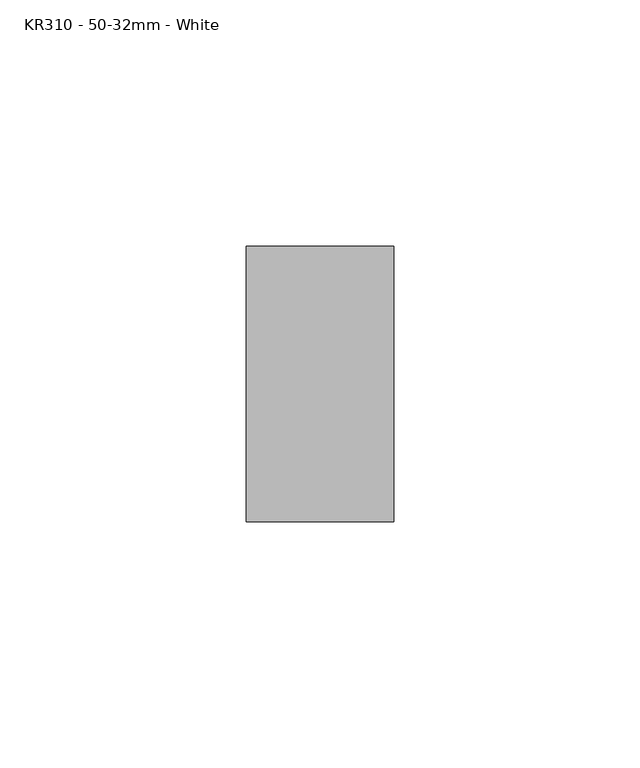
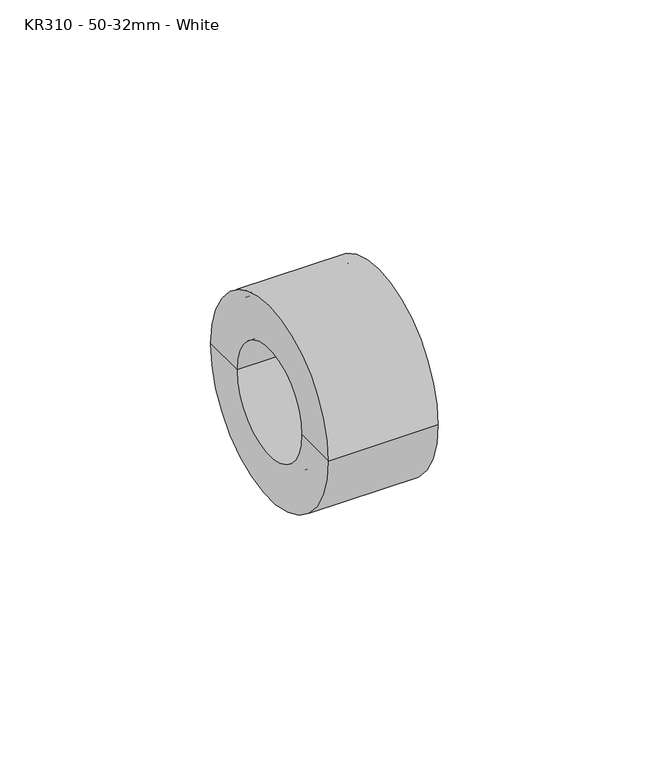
"""IFC4 building model written with IfcOpenShell, lengths in millimetres: pipe fitting geometry, MarleyPlumbingAndDrainage_PipeFitting_SocketReducer : KR310 - 50-32mm - White."""

from ifc_helpers import new_model, si_unit, frame, origin, place, context, project, spatial, polyline, circle_curve, source, transform, mapped, element, save
from ifc_brep_helpers import plane_surface, cylinder_surface, revolved_surface, advanced_brep


def kr310_50_32mm_white_3ceea3f4(model_context):
    return source(origin(), model_context, "Body", "AdvancedBrep", [
        advanced_brep(
        [(-14.8253818, -25.5, 0.0), (-14.8253818, 25.5, 0.0), (-14.8253818, 18.0, 0.0), (-14.8253818, -18.0, 0.0), (12.6746182, -25.5, 0.0), (12.6746182, 25.5, 0.0), (12.6746182, -28.0, 0.0), (12.6746182, 28.0, 0.0), (-17.3253818, -28.0, 0.0), (-17.3253818, 28.0, 0.0), (-17.3253818, -15.5, 0.0), (-17.3253818, 15.5, 0.0), (2.6746182, -15.5, 0.0), (2.6746182, 15.5, 0.0), (2.6746182, -18.0, 0.0), (2.6746182, 18.0, 0.0)],
        [
            (0, 1, circle_curve(frame((-14.8253818, 0.0, 0.0), z_axis=(1.0, 0.0, 0.0), x_axis=(0.0, 1.0, 0.0)), 25.5)),
            (1, 2),
            (2, 3, circle_curve(frame((-14.8253818, 0.0, 0.0), z_axis=(-1.0, 0.0, 0.0), x_axis=(0.0, 1.0, 0.0)), 18.0)),
            (3, 0),
            (1, 0, circle_curve(frame((-14.8253818, 0.0, 0.0), z_axis=(1.0, 0.0, 0.0), x_axis=(0.0, 1.0, 0.0)), 25.5)),
            (3, 2, circle_curve(frame((-14.8253818, 0.0, 0.0), z_axis=(-1.0, 0.0, 0.0), x_axis=(0.0, 1.0, 0.0)), 18.0)),
            (4, 5, circle_curve(frame((12.6746182, 0.0, 0.0), z_axis=(1.0, 0.0, 0.0), x_axis=(0.0, 1.0, 0.0)), 25.5)),
            (5, 1),
            (0, 4),
            (5, 4, circle_curve(frame((12.6746182, 0.0, 0.0), z_axis=(1.0, 0.0, 0.0), x_axis=(0.0, 1.0, 0.0)), 25.5)),
            (6, 7, circle_curve(frame((12.6746182, 0.0, 0.0), z_axis=(1.0, 0.0, 0.0), x_axis=(0.0, 1.0, 0.0)), 28.0)),
            (7, 5),
            (4, 6),
            (7, 6, circle_curve(frame((12.6746182, 0.0, 0.0), z_axis=(1.0, 0.0, 0.0), x_axis=(0.0, 1.0, 0.0)), 28.0)),
            (8, 9, circle_curve(frame((-17.3253818, 0.0, 0.0), z_axis=(1.0, 0.0, 0.0), x_axis=(0.0, 1.0, 0.0)), 28.0)),
            (9, 7),
            (6, 8),
            (9, 8, circle_curve(frame((-17.3253818, 0.0, 0.0), z_axis=(1.0, 0.0, 0.0), x_axis=(0.0, 1.0, 0.0)), 28.0)),
            (10, 11, circle_curve(frame((-17.3253818, 0.0, 0.0), z_axis=(1.0, 0.0, 0.0), x_axis=(0.0, 1.0, 0.0)), 15.5)),
            (11, 9),
            (8, 10),
            (11, 10, circle_curve(frame((-17.3253818, 0.0, 0.0), z_axis=(1.0, 0.0, 0.0), x_axis=(0.0, 1.0, 0.0)), 15.5)),
            (12, 13, circle_curve(frame((2.6746182, 0.0, 0.0), z_axis=(1.0, 0.0, 0.0), x_axis=(0.0, 1.0, 0.0)), 15.5)),
            (13, 11),
            (10, 12),
            (13, 12, circle_curve(frame((2.6746182, 0.0, 0.0), z_axis=(1.0, 0.0, 0.0), x_axis=(0.0, 1.0, 0.0)), 15.5)),
            (14, 15, circle_curve(frame((2.6746182, 0.0, 0.0), z_axis=(1.0, 0.0, 0.0), x_axis=(0.0, 1.0, 0.0)), 18.0)),
            (15, 13),
            (12, 14),
            (15, 14, circle_curve(frame((2.6746182, 0.0, 0.0), z_axis=(1.0, 0.0, 0.0), x_axis=(0.0, 1.0, 0.0)), 18.0)),
            (2, 15),
            (14, 3),
        ],
        [
            plane_surface(frame((-14.8253818, 0.0, 0.0), z_axis=(1.0, 0.0, 0.0), x_axis=(0.0, 1.0, 0.0))),
            revolved_surface(polyline([(-14.82538180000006, 25.5, 0.0), (12.67461819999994, 25.5, 0.0)]), (2016.5, 0.0, 0.0), (-1.0, 0.0, 0.0)),
            plane_surface(frame((12.6746182, 0.0, 0.0), z_axis=(1.0, 0.0, 0.0), x_axis=(0.0, 1.0, 0.0))),
            cylinder_surface(frame((2016.5, 0.0, 0.0), z_axis=(-1.0, 0.0, 0.0), x_axis=(0.0, 1.0, 0.0)), 28.0),
            plane_surface(frame((-17.3253818, 0.0, 0.0), z_axis=(-1.0, 0.0, 0.0), x_axis=(0.0, 1.0, 0.0))),
            revolved_surface(polyline([(-17.32538180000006, 15.5, 0.0), (2.6746181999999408, 15.5, 0.0)]), (2016.5, 0.0, 0.0), (-1.0, 0.0, 0.0)),
            plane_surface(frame((2.6746182, 0.0, 0.0), z_axis=(1.0, 0.0, 0.0), x_axis=(0.0, 1.0, 0.0))),
            cylinder_surface(frame((2016.5, 0.0, 0.0), z_axis=(-1.0, 0.0, 0.0), x_axis=(0.0, 1.0, 0.0)), 18.0),
        ],
        [
            (0, [[1, 2, 3, 4]]),
            (0, [[5, -4, 6, -2]]),
            (1, [[7, 8, -1, 9]]),
            (1, [[10, -9, -5, -8]]),
            (2, [[11, 12, -7, 13]]),
            (2, [[14, -13, -10, -12]]),
            (3, [[15, 16, -11, 17]]),
            (3, [[18, -17, -14, -16]]),
            (4, [[19, 20, -15, 21]]),
            (4, [[22, -21, -18, -20]]),
            (5, [[23, 24, -19, 25]]),
            (5, [[26, -25, -22, -24]]),
            (6, [[27, 28, -23, 29]]),
            (6, [[30, -29, -26, -28]]),
            (7, [[-3, 31, -27, 32]]),
            (7, [[-6, -32, -30, -31]]),
        ],
    ),
    ])


if __name__ == "__main__":
    model = new_model("IFC4")
    model_context = context("Model", 3, world=origin())
    ifc_project = project(units=[si_unit("LENGTHUNIT", "METRE", prefix="MILLI")], contexts=[model_context])
    site = spatial("IfcSite", under=ifc_project)
    building = spatial("IfcBuilding", under=site)
    placement = place(None, origin())
    kr310_50_32mm_white_shape = kr310_50_32mm_white_3ceea3f4(model_context)
    element("IfcPipeFitting", 1, ObjectType="MarleyPlumbingAndDrainage_PipeFitting_SocketReducer : KR310 - 50-32mm - White", at=placement, inside=building, context=model_context, shape_type="MappedRepresentation", body=[
        mapped(kr310_50_32mm_white_shape, transform((0.0, 0.0, 0.0), x_axis=(1.0, 0.0, 0.0), y_axis=(0.0, 1.0, 0.0), z_axis=(0.0, 0.0, 1.0))),
    ])
    save(model, "model.ifc")
